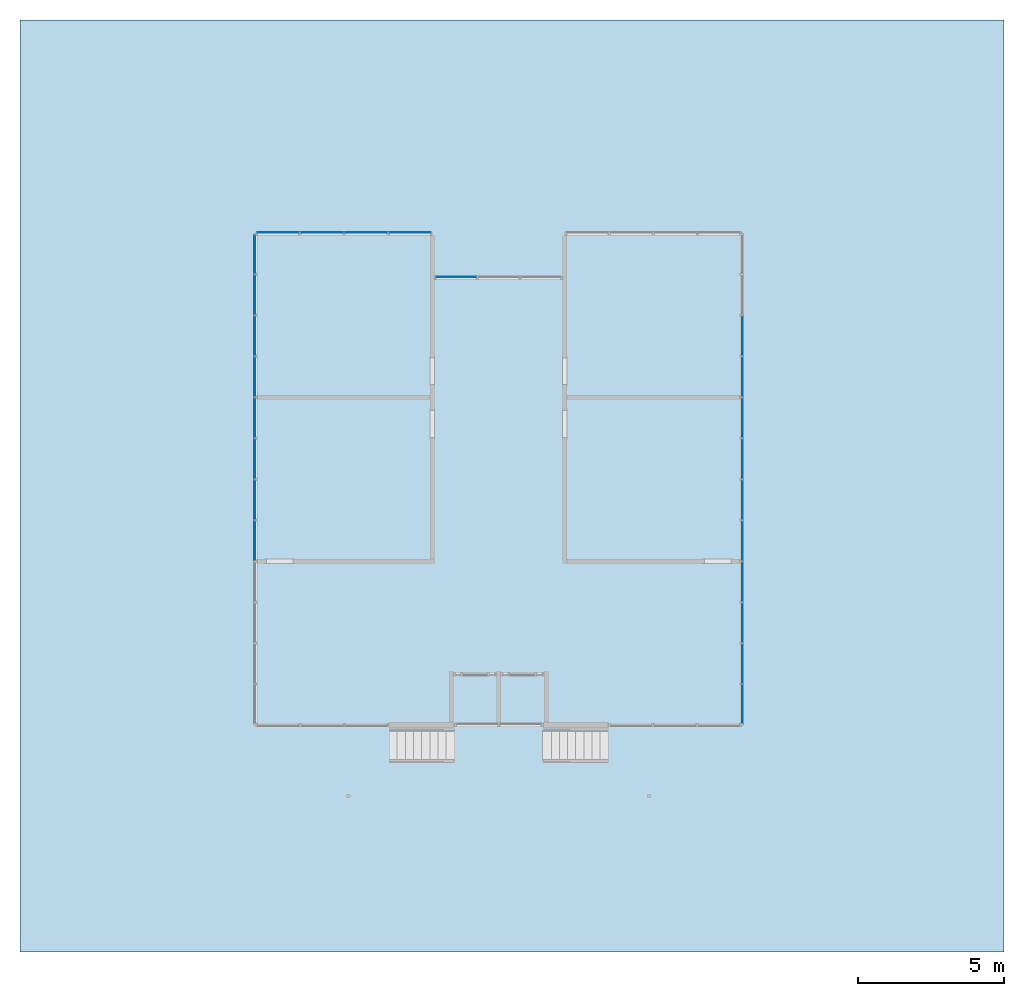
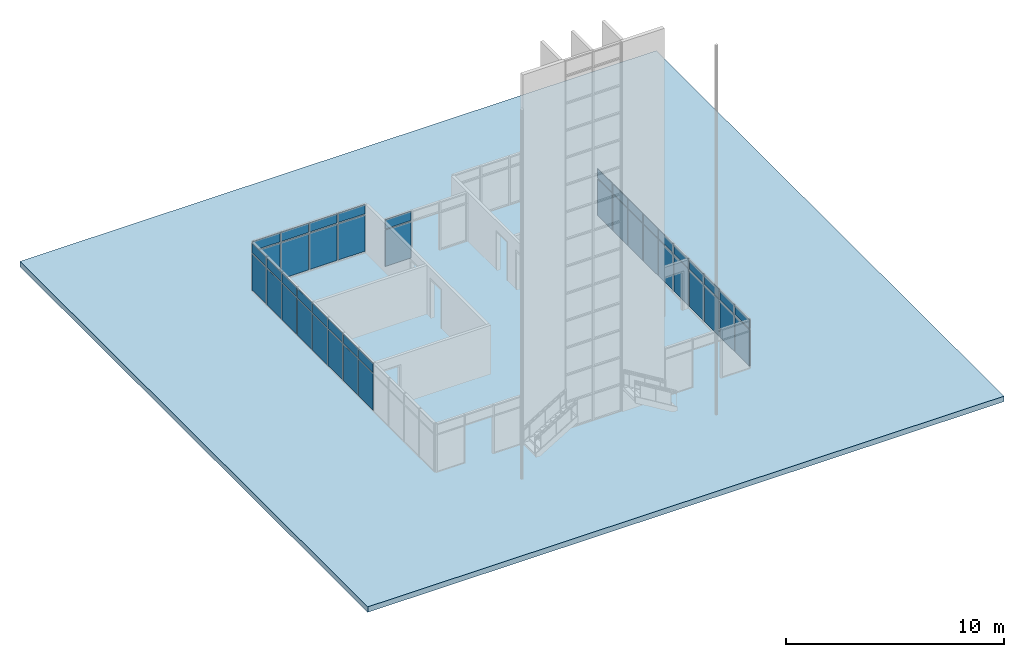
# One storey, part 8 of 12: 46 plates, 1 slab, 4 elements without a shape of their own.
"""IFC2X3 building model written with IfcOpenShell, lengths in feet."""

from ifc_helpers import new_model, entity, si_unit, converted_unit, derived_unit, direction, frame, frame_2d, origin, origin_2d_with_axis, place, context, subcontext, project, spatial, rectangle, extrude, source, transform, mapped, material, layer, layer_set, layer_usage, type_object, type_shapes, element, aggregate, save


model = new_model("IFC2X3")

# Units and contexts
model_context = context("Model", 3, precision=0.0001, world=origin(), true_north=direction((6.12303176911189e-17, 1.0)))
body_context = subcontext(model_context, "Body", "Model", "MODEL_VIEW")
ifc_project = project(units=[converted_unit("LENGTHUNIT", "FOOT", entity("IfcRatioMeasure", 0.3048), si_unit("LENGTHUNIT", "METRE"), dimensions=[1, 0, 0, 0, 0, 0, 0]), converted_unit("AREAUNIT", "SQUARE FOOT", entity("IfcRatioMeasure", 0.09290304), si_unit("AREAUNIT", "SQUARE_METRE"), dimensions=[2, 0, 0, 0, 0, 0, 0]), converted_unit("VOLUMEUNIT", "CUBIC FOOT", entity("IfcRatioMeasure", 0.028316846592), si_unit("VOLUMEUNIT", "CUBIC_METRE"), dimensions=[3, 0, 0, 0, 0, 0, 0]), converted_unit("PLANEANGLEUNIT", "DEGREE", entity("IfcRatioMeasure", 0.0174532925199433), si_unit("PLANEANGLEUNIT", "RADIAN"), dimensions=[0, 0, 0, 0, 0, 0, 0]), si_unit("MASSUNIT", "GRAM", prefix="KILO"), derived_unit("MASSDENSITYUNIT", [(si_unit("MASSUNIT", "GRAM", prefix="KILO"), 1), (si_unit("LENGTHUNIT", "METRE"), -3)]), si_unit("TIMEUNIT", "SECOND"), si_unit("FREQUENCYUNIT", "HERTZ"), si_unit("THERMODYNAMICTEMPERATUREUNIT", "DEGREE_CELSIUS"), derived_unit("THERMALTRANSMITTANCEUNIT", [(si_unit("MASSUNIT", "GRAM", prefix="KILO"), 1), (si_unit("THERMODYNAMICTEMPERATUREUNIT", "KELVIN"), -1), (si_unit("TIMEUNIT", "SECOND"), -3)]), derived_unit("VOLUMETRICFLOWRATEUNIT", [(si_unit("LENGTHUNIT", "METRE"), 3), (si_unit("TIMEUNIT", "SECOND"), -1)]), si_unit("ELECTRICCURRENTUNIT", "AMPERE"), si_unit("ELECTRICVOLTAGEUNIT", "VOLT"), si_unit("POWERUNIT", "WATT"), si_unit("FORCEUNIT", "NEWTON"), si_unit("ILLUMINANCEUNIT", "LUX"), si_unit("LUMINOUSFLUXUNIT", "LUMEN"), si_unit("LUMINOUSINTENSITYUNIT", "CANDELA"), derived_unit("USERDEFINED", [(si_unit("MASSUNIT", "GRAM", prefix="KILO"), -1), (si_unit("LENGTHUNIT", "METRE"), -2), (si_unit("TIMEUNIT", "SECOND"), 3), (si_unit("LUMINOUSFLUXUNIT", "LUMEN"), 1)]), derived_unit("LINEARVELOCITYUNIT", [(si_unit("LENGTHUNIT", "METRE"), 1), (si_unit("TIMEUNIT", "SECOND"), -1)]), si_unit("PRESSUREUNIT", "PASCAL"), derived_unit("USERDEFINED", [(si_unit("LENGTHUNIT", "METRE"), -2), (si_unit("MASSUNIT", "GRAM", prefix="KILO"), 1), (si_unit("TIMEUNIT", "SECOND"), -2)])], contexts=[model_context])

# Site, building, storey
site_placement = place(None, origin())
site = spatial("IfcSite", under=ifc_project, at=site_placement, Name="Default", CompositionType="ELEMENT")
building_placement = place(site_placement, origin())
building = spatial("IfcBuilding", under=site, at=building_placement, CompositionType="ELEMENT")
storey_placement = place(building_placement, origin())
storey = spatial("IfcBuildingStorey", under=building, at=storey_placement, Name="Level 1", CompositionType="ELEMENT", Elevation=0.0)

# Curtain wall, plate
curtain_wall_type = type_object("IfcCurtainWallType", Name="Curtain Wall:Storefront 2", PredefinedType="NOTDEFINED")
curtain_wall_1_placement = place(storey_placement, origin())
curtain_wall_1 = element("IfcCurtainWall", 1, at=curtain_wall_1_placement, inside=storey, type_object=curtain_wall_type, Name="Curtain Wall:Storefront 2", ObjectType="Curtain Wall:Storefront 2")
ifc_material_1 = material(Name="<Unnamed>")
ifc_layer_1 = layer(ifc_material_1, 0.0833333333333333)
ifc_layer_set_1 = layer_set([ifc_layer_1], Name="Curtain Wall:Storefront")
ifc_layer_usage_1 = layer_usage(ifc_layer_set_1, "AXIS3", "POSITIVE", 0.104166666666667)
plate_type_1 = type_object("IfcPlateType", Name="Glazed", PredefinedType="CURTAIN_PANEL", material=ifc_layer_set_1)
shared_shape_1 = source(origin(), body_context, "Body", "SweptSolid", [
    extrude(rectangle(XDim=0.0833333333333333, YDim=4.29513888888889, at=frame_2d((-6.93889390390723e-18, 0.0), x_axis=(1.0, 0.0))), frame((0.0, 0.104166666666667, 0.0), z_axis=(0.0, 0.0, 1.0), x_axis=(0.0, 1.0, 0.0)), (0.0, 0.0, 1.0), 6.6875),
])
type_shapes(plate_type_1, [shared_shape_1])
plate_1_placement = place(curtain_wall_1_placement, frame((-61.3251627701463, 45.9946226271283, 0.208333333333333), z_axis=(0.0, 0.0, 1.0), x_axis=(0.0, 1.0, 0.0)))
plate_1 = element("IfcPlate", 2, at=plate_1_placement, type_object=plate_type_1, material=ifc_layer_usage_1, Name="System Panel:Glazed", ObjectType="Glazed", context=body_context, shape_type="MappedRepresentation", body=[
    mapped(shared_shape_1, transform((0.0, 0.0, 0.0), scale=1.0)),
])

curtain_wall_2_placement = place(storey_placement, origin())
curtain_wall_2 = element("IfcCurtainWall", 3, at=curtain_wall_2_placement, inside=storey, type_object=curtain_wall_type, Name="Curtain Wall:Storefront 2", ObjectType="Curtain Wall:Storefront 2")
ifc_layer_usage_2 = layer_usage(ifc_layer_set_1, "AXIS3", "POSITIVE", 0.104166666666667)
plate_2_placement = place(curtain_wall_2_placement, frame((-6.65849610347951, -4.58523848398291, 0.208333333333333), z_axis=(0.0, 0.0, 1.0), x_axis=(0.0, -1.0, 0.0)))
plate_2 = element("IfcPlate", 4, at=plate_2_placement, type_object=plate_type_1, material=ifc_layer_usage_2, Name="System Panel:Glazed", ObjectType="Glazed", context=body_context, shape_type="MappedRepresentation", body=[
    mapped(shared_shape_1, transform((0.0, 0.0, 0.0), scale=1.0)),
])

# Plate
ifc_layer_usage_3 = layer_usage(ifc_layer_set_1, "AXIS3", "POSITIVE", 0.104166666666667)
plate_type_2 = type_object("IfcPlateType", Name="Glazed", PredefinedType="CURTAIN_PANEL", material=ifc_layer_set_1)
shared_shape_2 = source(origin(), body_context, "Body", "SweptSolid", [
    extrude(rectangle(XDim=0.0833333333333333, YDim=4.39930555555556, at=frame_2d((-6.93889390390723e-18, 0.0), x_axis=(1.0, 0.0))), frame((0.0, 0.104166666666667, 0.0), z_axis=(0.0, 0.0, 1.0), x_axis=(0.0, 1.0, 0.0)), (0.0, 0.0, 1.0), 6.6875),
])
type_shapes(plate_type_2, [shared_shape_2])
plate_3_placement = place(curtain_wall_1_placement, frame((-61.3251627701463, 13.7932337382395, 0.208333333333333), z_axis=(0.0, 0.0, 1.0), x_axis=(0.0, 1.0, 0.0)))
plate_3 = element("IfcPlate", 5, at=plate_3_placement, type_object=plate_type_2, material=ifc_layer_usage_3, Name="System Panel:Glazed", ObjectType="Glazed", context=body_context, shape_type="MappedRepresentation", body=[
    mapped(shared_shape_2, transform((0.0, 0.0, 0.0), scale=1.0)),
])

ifc_layer_usage_4 = layer_usage(ifc_layer_set_1, "AXIS3", "POSITIVE", 0.104166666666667)
plate_4_placement = place(curtain_wall_1_placement, frame((-61.3251627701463, 18.4008726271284, 0.208333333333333), z_axis=(0.0, 0.0, 1.0), x_axis=(0.0, 1.0, 0.0)))
plate_4 = element("IfcPlate", 6, at=plate_4_placement, type_object=plate_type_2, material=ifc_layer_usage_4, Name="System Panel:Glazed", ObjectType="Glazed", context=body_context, shape_type="MappedRepresentation", body=[
    mapped(shared_shape_2, transform((0.0, 0.0, 0.0), scale=1.0)),
])

ifc_layer_usage_5 = layer_usage(ifc_layer_set_1, "AXIS3", "POSITIVE", 0.104166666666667)
plate_5_placement = place(curtain_wall_1_placement, frame((-61.3251627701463, 23.0085115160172, 0.208333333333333), z_axis=(0.0, 0.0, 1.0), x_axis=(0.0, 1.0, 0.0)))
plate_5 = element("IfcPlate", 7, at=plate_5_placement, type_object=plate_type_2, material=ifc_layer_usage_5, Name="System Panel:Glazed", ObjectType="Glazed", context=body_context, shape_type="MappedRepresentation", body=[
    mapped(shared_shape_2, transform((0.0, 0.0, 0.0), scale=1.0)),
])

ifc_layer_usage_6 = layer_usage(ifc_layer_set_1, "AXIS3", "POSITIVE", 0.104166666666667)
plate_6_placement = place(curtain_wall_1_placement, frame((-61.3251627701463, 27.6161504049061, 0.208333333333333), z_axis=(0.0, 0.0, 1.0), x_axis=(0.0, 1.0, 0.0)))
plate_6 = element("IfcPlate", 8, at=plate_6_placement, type_object=plate_type_2, material=ifc_layer_usage_6, Name="System Panel:Glazed", ObjectType="Glazed", context=body_context, shape_type="MappedRepresentation", body=[
    mapped(shared_shape_2, transform((0.0, 0.0, 0.0), scale=1.0)),
])

ifc_layer_usage_7 = layer_usage(ifc_layer_set_1, "AXIS3", "POSITIVE", 0.104166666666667)
plate_7_placement = place(curtain_wall_1_placement, frame((-61.3251627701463, 32.223789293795, 0.208333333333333), z_axis=(0.0, 0.0, 1.0), x_axis=(0.0, 1.0, 0.0)))
plate_7 = element("IfcPlate", 9, at=plate_7_placement, type_object=plate_type_2, material=ifc_layer_usage_7, Name="System Panel:Glazed", ObjectType="Glazed", context=body_context, shape_type="MappedRepresentation", body=[
    mapped(shared_shape_2, transform((0.0, 0.0, 0.0), scale=1.0)),
])

ifc_layer_usage_8 = layer_usage(ifc_layer_set_1, "AXIS3", "POSITIVE", 0.104166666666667)
plate_8_placement = place(curtain_wall_1_placement, frame((-61.3251627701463, 36.8314281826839, 0.208333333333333), z_axis=(0.0, 0.0, 1.0), x_axis=(0.0, 1.0, 0.0)))
plate_8 = element("IfcPlate", 10, at=plate_8_placement, type_object=plate_type_2, material=ifc_layer_usage_8, Name="System Panel:Glazed", ObjectType="Glazed", context=body_context, shape_type="MappedRepresentation", body=[
    mapped(shared_shape_2, transform((0.0, 0.0, 0.0), scale=1.0)),
])

ifc_layer_usage_9 = layer_usage(ifc_layer_set_1, "AXIS3", "POSITIVE", 0.104166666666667)
plate_9_placement = place(curtain_wall_1_placement, frame((-61.3251627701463, 41.4390670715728, 0.208333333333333), z_axis=(0.0, 0.0, 1.0), x_axis=(0.0, 1.0, 0.0)))
plate_9 = element("IfcPlate", 11, at=plate_9_placement, type_object=plate_type_2, material=ifc_layer_usage_9, Name="System Panel:Glazed", ObjectType="Glazed", context=body_context, shape_type="MappedRepresentation", body=[
    mapped(shared_shape_2, transform((0.0, 0.0, 0.0), scale=1.0)),
])

ifc_layer_usage_10 = layer_usage(ifc_layer_set_1, "AXIS3", "POSITIVE", 0.104166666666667)
plate_10_placement = place(curtain_wall_2_placement, frame((-6.65849610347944, 36.8314281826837, 0.208333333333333), z_axis=(0.0, 0.0, 1.0), x_axis=(0.0, -1.0, 0.0)))
plate_10 = element("IfcPlate", 12, at=plate_10_placement, type_object=plate_type_2, material=ifc_layer_usage_10, Name="System Panel:Glazed", ObjectType="Glazed", context=body_context, shape_type="MappedRepresentation", body=[
    mapped(shared_shape_2, transform((0.0, 0.0, 0.0), scale=1.0)),
])

ifc_layer_usage_11 = layer_usage(ifc_layer_set_1, "AXIS3", "POSITIVE", 0.104166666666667)
plate_11_placement = place(curtain_wall_2_placement, frame((-6.65849610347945, 32.2237892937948, 0.208333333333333), z_axis=(0.0, 0.0, 1.0), x_axis=(0.0, -1.0, 0.0)))
plate_11 = element("IfcPlate", 13, at=plate_11_placement, type_object=plate_type_2, material=ifc_layer_usage_11, Name="System Panel:Glazed", ObjectType="Glazed", context=body_context, shape_type="MappedRepresentation", body=[
    mapped(shared_shape_2, transform((0.0, 0.0, 0.0), scale=1.0)),
])

ifc_layer_usage_12 = layer_usage(ifc_layer_set_1, "AXIS3", "POSITIVE", 0.104166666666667)
plate_12_placement = place(curtain_wall_2_placement, frame((-6.65849610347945, 27.616150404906, 0.208333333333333), z_axis=(0.0, 0.0, 1.0), x_axis=(0.0, -1.0, 0.0)))
plate_12 = element("IfcPlate", 14, at=plate_12_placement, type_object=plate_type_2, material=ifc_layer_usage_12, Name="System Panel:Glazed", ObjectType="Glazed", context=body_context, shape_type="MappedRepresentation", body=[
    mapped(shared_shape_2, transform((0.0, 0.0, 0.0), scale=1.0)),
])

ifc_layer_usage_13 = layer_usage(ifc_layer_set_1, "AXIS3", "POSITIVE", 0.104166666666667)
plate_13_placement = place(curtain_wall_2_placement, frame((-6.65849610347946, 23.0085115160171, 0.208333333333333), z_axis=(0.0, 0.0, 1.0), x_axis=(0.0, -1.0, 0.0)))
plate_13 = element("IfcPlate", 15, at=plate_13_placement, type_object=plate_type_2, material=ifc_layer_usage_13, Name="System Panel:Glazed", ObjectType="Glazed", context=body_context, shape_type="MappedRepresentation", body=[
    mapped(shared_shape_2, transform((0.0, 0.0, 0.0), scale=1.0)),
])

ifc_layer_usage_14 = layer_usage(ifc_layer_set_1, "AXIS3", "POSITIVE", 0.104166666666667)
plate_14_placement = place(curtain_wall_2_placement, frame((-6.65849610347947, 18.4008726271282, 0.208333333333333), z_axis=(0.0, 0.0, 1.0), x_axis=(0.0, -1.0, 0.0)))
plate_14 = element("IfcPlate", 16, at=plate_14_placement, type_object=plate_type_2, material=ifc_layer_usage_14, Name="System Panel:Glazed", ObjectType="Glazed", context=body_context, shape_type="MappedRepresentation", body=[
    mapped(shared_shape_2, transform((0.0, 0.0, 0.0), scale=1.0)),
])

ifc_layer_usage_15 = layer_usage(ifc_layer_set_1, "AXIS3", "POSITIVE", 0.104166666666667)
plate_15_placement = place(curtain_wall_2_placement, frame((-6.65849610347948, 13.7932337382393, 0.208333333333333), z_axis=(0.0, 0.0, 1.0), x_axis=(0.0, -1.0, 0.0)))
plate_15 = element("IfcPlate", 17, at=plate_15_placement, type_object=plate_type_2, material=ifc_layer_usage_15, Name="System Panel:Glazed", ObjectType="Glazed", context=body_context, shape_type="MappedRepresentation", body=[
    mapped(shared_shape_2, transform((0.0, 0.0, 0.0), scale=1.0)),
])

ifc_layer_usage_16 = layer_usage(ifc_layer_set_1, "AXIS3", "POSITIVE", 0.104166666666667)
plate_16_placement = place(curtain_wall_2_placement, frame((-6.65849610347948, 9.18559484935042, 0.208333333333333), z_axis=(0.0, 0.0, 1.0), x_axis=(0.0, -1.0, 0.0)))
plate_16 = element("IfcPlate", 18, at=plate_16_placement, type_object=plate_type_2, material=ifc_layer_usage_16, Name="System Panel:Glazed", ObjectType="Glazed", context=body_context, shape_type="MappedRepresentation", body=[
    mapped(shared_shape_2, transform((0.0, 0.0, 0.0), scale=1.0)),
])

ifc_layer_usage_17 = layer_usage(ifc_layer_set_1, "AXIS3", "POSITIVE", 0.104166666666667)
plate_17_placement = place(curtain_wall_2_placement, frame((-6.65849610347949, 4.57795596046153, 0.208333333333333), z_axis=(0.0, 0.0, 1.0), x_axis=(0.0, -1.0, 0.0)))
plate_17 = element("IfcPlate", 19, at=plate_17_placement, type_object=plate_type_2, material=ifc_layer_usage_17, Name="System Panel:Glazed", ObjectType="Glazed", context=body_context, shape_type="MappedRepresentation", body=[
    mapped(shared_shape_2, transform((0.0, 0.0, 0.0), scale=1.0)),
])

ifc_layer_usage_18 = layer_usage(ifc_layer_set_1, "AXIS3", "POSITIVE", 0.104166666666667)
plate_18_placement = place(curtain_wall_2_placement, frame((-6.6584961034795, -0.0296829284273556, 0.208333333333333), z_axis=(0.0, 0.0, 1.0), x_axis=(0.0, -1.0, 0.0)))
plate_18 = element("IfcPlate", 20, at=plate_18_placement, type_object=plate_type_2, material=ifc_layer_usage_18, Name="System Panel:Glazed", ObjectType="Glazed", context=body_context, shape_type="MappedRepresentation", body=[
    mapped(shared_shape_2, transform((0.0, 0.0, 0.0), scale=1.0)),
])

ifc_layer_usage_19 = layer_usage(ifc_layer_set_1, "AXIS3", "POSITIVE", 0.104166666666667)
plate_type_3 = type_object("IfcPlateType", Name="Glazed", PredefinedType="CURTAIN_PANEL", material=ifc_layer_set_1)
shared_shape_3 = source(origin(), body_context, "Body", "SweptSolid", [
    extrude(rectangle(XDim=0.0833333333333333, YDim=4.29513888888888, at=frame_2d((-6.93889390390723e-18, 0.0), x_axis=(1.0, 0.0))), frame((0.0, 0.104166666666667, 0.0), z_axis=(0.0, 0.0, 1.0), x_axis=(0.0, 1.0, 0.0)), (0.0, 0.0, 1.0), 1.6875),
])
type_shapes(plate_type_3, [shared_shape_3])
plate_19_placement = place(curtain_wall_1_placement, frame((-61.3251627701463, 45.9946226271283, 7.10416666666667), z_axis=(0.0, 0.0, 1.0), x_axis=(0.0, 1.0, 0.0)))
plate_19 = element("IfcPlate", 21, at=plate_19_placement, type_object=plate_type_3, material=ifc_layer_usage_19, Name="System Panel:Glazed", ObjectType="Glazed", context=body_context, shape_type="MappedRepresentation", body=[
    mapped(shared_shape_3, transform((0.0, 0.0, 0.0), scale=1.0)),
])

ifc_layer_usage_20 = layer_usage(ifc_layer_set_1, "AXIS3", "POSITIVE", 0.104166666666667)
plate_20_placement = place(curtain_wall_2_placement, frame((-6.65849610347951, -4.58523848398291, 7.10416666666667), z_axis=(0.0, 0.0, 1.0), x_axis=(0.0, -1.0, 0.0)))
plate_20 = element("IfcPlate", 22, at=plate_20_placement, type_object=plate_type_3, material=ifc_layer_usage_20, Name="System Panel:Glazed", ObjectType="Glazed", context=body_context, shape_type="MappedRepresentation", body=[
    mapped(shared_shape_3, transform((0.0, 0.0, 0.0), scale=1.0)),
])

ifc_layer_usage_21 = layer_usage(ifc_layer_set_1, "AXIS3", "POSITIVE", 0.104166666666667)
plate_type_4 = type_object("IfcPlateType", Name="Glazed", PredefinedType="CURTAIN_PANEL", material=ifc_layer_set_1)
shared_shape_4 = source(origin(), body_context, "Body", "SweptSolid", [
    extrude(rectangle(XDim=0.0833333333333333, YDim=4.39930555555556, at=frame_2d((-6.93889390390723e-18, 0.0), x_axis=(1.0, 0.0))), frame((0.0, 0.104166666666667, 0.0), z_axis=(0.0, 0.0, 1.0), x_axis=(0.0, 1.0, 0.0)), (0.0, 0.0, 1.0), 1.6875),
])
type_shapes(plate_type_4, [shared_shape_4])
plate_21_placement = place(curtain_wall_1_placement, frame((-61.3251627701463, 13.7932337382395, 7.10416666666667), z_axis=(0.0, 0.0, 1.0), x_axis=(0.0, 1.0, 0.0)))
plate_21 = element("IfcPlate", 23, at=plate_21_placement, type_object=plate_type_4, material=ifc_layer_usage_21, Name="System Panel:Glazed", ObjectType="Glazed", context=body_context, shape_type="MappedRepresentation", body=[
    mapped(shared_shape_4, transform((0.0, 0.0, 0.0), scale=1.0)),
])

ifc_layer_usage_22 = layer_usage(ifc_layer_set_1, "AXIS3", "POSITIVE", 0.104166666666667)
plate_22_placement = place(curtain_wall_1_placement, frame((-61.3251627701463, 18.4008726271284, 7.10416666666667), z_axis=(0.0, 0.0, 1.0), x_axis=(0.0, 1.0, 0.0)))
plate_22 = element("IfcPlate", 24, at=plate_22_placement, type_object=plate_type_4, material=ifc_layer_usage_22, Name="System Panel:Glazed", ObjectType="Glazed", context=body_context, shape_type="MappedRepresentation", body=[
    mapped(shared_shape_4, transform((0.0, 0.0, 0.0), scale=1.0)),
])

ifc_layer_usage_23 = layer_usage(ifc_layer_set_1, "AXIS3", "POSITIVE", 0.104166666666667)
plate_23_placement = place(curtain_wall_1_placement, frame((-61.3251627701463, 23.0085115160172, 7.10416666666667), z_axis=(0.0, 0.0, 1.0), x_axis=(0.0, 1.0, 0.0)))
plate_23 = element("IfcPlate", 25, at=plate_23_placement, type_object=plate_type_4, material=ifc_layer_usage_23, Name="System Panel:Glazed", ObjectType="Glazed", context=body_context, shape_type="MappedRepresentation", body=[
    mapped(shared_shape_4, transform((0.0, 0.0, 0.0), scale=1.0)),
])

ifc_layer_usage_24 = layer_usage(ifc_layer_set_1, "AXIS3", "POSITIVE", 0.104166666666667)
plate_24_placement = place(curtain_wall_1_placement, frame((-61.3251627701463, 27.6161504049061, 7.10416666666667), z_axis=(0.0, 0.0, 1.0), x_axis=(0.0, 1.0, 0.0)))
plate_24 = element("IfcPlate", 26, at=plate_24_placement, type_object=plate_type_4, material=ifc_layer_usage_24, Name="System Panel:Glazed", ObjectType="Glazed", context=body_context, shape_type="MappedRepresentation", body=[
    mapped(shared_shape_4, transform((0.0, 0.0, 0.0), scale=1.0)),
])

ifc_layer_usage_25 = layer_usage(ifc_layer_set_1, "AXIS3", "POSITIVE", 0.104166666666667)
plate_25_placement = place(curtain_wall_1_placement, frame((-61.3251627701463, 32.223789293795, 7.10416666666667), z_axis=(0.0, 0.0, 1.0), x_axis=(0.0, 1.0, 0.0)))
plate_25 = element("IfcPlate", 27, at=plate_25_placement, type_object=plate_type_4, material=ifc_layer_usage_25, Name="System Panel:Glazed", ObjectType="Glazed", context=body_context, shape_type="MappedRepresentation", body=[
    mapped(shared_shape_4, transform((0.0, 0.0, 0.0), scale=1.0)),
])

ifc_layer_usage_26 = layer_usage(ifc_layer_set_1, "AXIS3", "POSITIVE", 0.104166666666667)
plate_26_placement = place(curtain_wall_1_placement, frame((-61.3251627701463, 36.8314281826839, 7.10416666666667), z_axis=(0.0, 0.0, 1.0), x_axis=(0.0, 1.0, 0.0)))
plate_26 = element("IfcPlate", 28, at=plate_26_placement, type_object=plate_type_4, material=ifc_layer_usage_26, Name="System Panel:Glazed", ObjectType="Glazed", context=body_context, shape_type="MappedRepresentation", body=[
    mapped(shared_shape_4, transform((0.0, 0.0, 0.0), scale=1.0)),
])

ifc_layer_usage_27 = layer_usage(ifc_layer_set_1, "AXIS3", "POSITIVE", 0.104166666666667)
plate_27_placement = place(curtain_wall_1_placement, frame((-61.3251627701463, 41.4390670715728, 7.10416666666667), z_axis=(0.0, 0.0, 1.0), x_axis=(0.0, 1.0, 0.0)))
plate_27 = element("IfcPlate", 29, at=plate_27_placement, type_object=plate_type_4, material=ifc_layer_usage_27, Name="System Panel:Glazed", ObjectType="Glazed", context=body_context, shape_type="MappedRepresentation", body=[
    mapped(shared_shape_4, transform((0.0, 0.0, 0.0), scale=1.0)),
])

aggregate(curtain_wall_1, [plate_3, plate_4, plate_5, plate_6, plate_7, plate_8, plate_9, plate_1, plate_21, plate_22, plate_23, plate_24, plate_25, plate_26, plate_27, plate_19])

ifc_layer_usage_28 = layer_usage(ifc_layer_set_1, "AXIS3", "POSITIVE", 0.104166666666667)
plate_28_placement = place(curtain_wall_2_placement, frame((-6.65849610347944, 36.8314281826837, 7.10416666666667), z_axis=(0.0, 0.0, 1.0), x_axis=(0.0, -1.0, 0.0)))
plate_28 = element("IfcPlate", 30, at=plate_28_placement, type_object=plate_type_4, material=ifc_layer_usage_28, Name="System Panel:Glazed", ObjectType="Glazed", context=body_context, shape_type="MappedRepresentation", body=[
    mapped(shared_shape_4, transform((0.0, 0.0, 0.0), scale=1.0)),
])

ifc_layer_usage_29 = layer_usage(ifc_layer_set_1, "AXIS3", "POSITIVE", 0.104166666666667)
plate_29_placement = place(curtain_wall_2_placement, frame((-6.65849610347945, 32.2237892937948, 7.10416666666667), z_axis=(0.0, 0.0, 1.0), x_axis=(0.0, -1.0, 0.0)))
plate_29 = element("IfcPlate", 31, at=plate_29_placement, type_object=plate_type_4, material=ifc_layer_usage_29, Name="System Panel:Glazed", ObjectType="Glazed", context=body_context, shape_type="MappedRepresentation", body=[
    mapped(shared_shape_4, transform((0.0, 0.0, 0.0), scale=1.0)),
])

ifc_layer_usage_30 = layer_usage(ifc_layer_set_1, "AXIS3", "POSITIVE", 0.104166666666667)
plate_30_placement = place(curtain_wall_2_placement, frame((-6.65849610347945, 27.616150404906, 7.10416666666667), z_axis=(0.0, 0.0, 1.0), x_axis=(0.0, -1.0, 0.0)))
plate_30 = element("IfcPlate", 32, at=plate_30_placement, type_object=plate_type_4, material=ifc_layer_usage_30, Name="System Panel:Glazed", ObjectType="Glazed", context=body_context, shape_type="MappedRepresentation", body=[
    mapped(shared_shape_4, transform((0.0, 0.0, 0.0), scale=1.0)),
])

ifc_layer_usage_31 = layer_usage(ifc_layer_set_1, "AXIS3", "POSITIVE", 0.104166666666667)
plate_31_placement = place(curtain_wall_2_placement, frame((-6.65849610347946, 23.0085115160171, 7.10416666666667), z_axis=(0.0, 0.0, 1.0), x_axis=(0.0, -1.0, 0.0)))
plate_31 = element("IfcPlate", 33, at=plate_31_placement, type_object=plate_type_4, material=ifc_layer_usage_31, Name="System Panel:Glazed", ObjectType="Glazed", context=body_context, shape_type="MappedRepresentation", body=[
    mapped(shared_shape_4, transform((0.0, 0.0, 0.0), scale=1.0)),
])

ifc_layer_usage_32 = layer_usage(ifc_layer_set_1, "AXIS3", "POSITIVE", 0.104166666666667)
plate_32_placement = place(curtain_wall_2_placement, frame((-6.65849610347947, 18.4008726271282, 7.10416666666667), z_axis=(0.0, 0.0, 1.0), x_axis=(0.0, -1.0, 0.0)))
plate_32 = element("IfcPlate", 34, at=plate_32_placement, type_object=plate_type_4, material=ifc_layer_usage_32, Name="System Panel:Glazed", ObjectType="Glazed", context=body_context, shape_type="MappedRepresentation", body=[
    mapped(shared_shape_4, transform((0.0, 0.0, 0.0), scale=1.0)),
])

ifc_layer_usage_33 = layer_usage(ifc_layer_set_1, "AXIS3", "POSITIVE", 0.104166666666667)
plate_33_placement = place(curtain_wall_2_placement, frame((-6.65849610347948, 13.7932337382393, 7.10416666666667), z_axis=(0.0, 0.0, 1.0), x_axis=(0.0, -1.0, 0.0)))
plate_33 = element("IfcPlate", 35, at=plate_33_placement, type_object=plate_type_4, material=ifc_layer_usage_33, Name="System Panel:Glazed", ObjectType="Glazed", context=body_context, shape_type="MappedRepresentation", body=[
    mapped(shared_shape_4, transform((0.0, 0.0, 0.0), scale=1.0)),
])

ifc_layer_usage_34 = layer_usage(ifc_layer_set_1, "AXIS3", "POSITIVE", 0.104166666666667)
plate_34_placement = place(curtain_wall_2_placement, frame((-6.65849610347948, 9.18559484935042, 7.10416666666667), z_axis=(0.0, 0.0, 1.0), x_axis=(0.0, -1.0, 0.0)))
plate_34 = element("IfcPlate", 36, at=plate_34_placement, type_object=plate_type_4, material=ifc_layer_usage_34, Name="System Panel:Glazed", ObjectType="Glazed", context=body_context, shape_type="MappedRepresentation", body=[
    mapped(shared_shape_4, transform((0.0, 0.0, 0.0), scale=1.0)),
])

ifc_layer_usage_35 = layer_usage(ifc_layer_set_1, "AXIS3", "POSITIVE", 0.104166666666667)
plate_35_placement = place(curtain_wall_2_placement, frame((-6.65849610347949, 4.57795596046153, 7.10416666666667), z_axis=(0.0, 0.0, 1.0), x_axis=(0.0, -1.0, 0.0)))
plate_35 = element("IfcPlate", 37, at=plate_35_placement, type_object=plate_type_4, material=ifc_layer_usage_35, Name="System Panel:Glazed", ObjectType="Glazed", context=body_context, shape_type="MappedRepresentation", body=[
    mapped(shared_shape_4, transform((0.0, 0.0, 0.0), scale=1.0)),
])

ifc_layer_usage_36 = layer_usage(ifc_layer_set_1, "AXIS3", "POSITIVE", 0.104166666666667)
plate_36_placement = place(curtain_wall_2_placement, frame((-6.6584961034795, -0.0296829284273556, 7.10416666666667), z_axis=(0.0, 0.0, 1.0), x_axis=(0.0, -1.0, 0.0)))
plate_36 = element("IfcPlate", 38, at=plate_36_placement, type_object=plate_type_4, material=ifc_layer_usage_36, Name="System Panel:Glazed", ObjectType="Glazed", context=body_context, shape_type="MappedRepresentation", body=[
    mapped(shared_shape_4, transform((0.0, 0.0, 0.0), scale=1.0)),
])

aggregate(curtain_wall_2, [plate_10, plate_11, plate_12, plate_13, plate_14, plate_15, plate_16, plate_17, plate_18, plate_2, plate_28, plate_29, plate_30, plate_31, plate_32, plate_33, plate_34, plate_35, plate_36, plate_20])

# Curtain wall, plates
curtain_wall_3_placement = place(storey_placement, origin())
curtain_wall_3 = element("IfcCurtainWall", 39, at=curtain_wall_3_placement, inside=storey, type_object=curtain_wall_type, Name="Curtain Wall:Storefront 2", ObjectType="Curtain Wall:Storefront 2")
ifc_layer_usage_37 = layer_usage(ifc_layer_set_1, "AXIS3", "POSITIVE", 0.104166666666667)
plate_type_5 = type_object("IfcPlateType", Name="Glazed", PredefinedType="CURTAIN_PANEL", material=ifc_layer_set_1)
shared_shape_5 = source(origin(), body_context, "Body", "SweptSolid", [
    extrude(rectangle(XDim=0.0833333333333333, YDim=4.65719696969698, at=frame_2d((-6.93889390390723e-18, 0.0), x_axis=(1.0, 0.0))), frame((0.0, 0.104166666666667, 0.0), z_axis=(0.0, 0.0, 1.0), x_axis=(0.0, 1.0, 0.0)), (0.0, 0.0, 1.0), 6.6875),
])
type_shapes(plate_type_5, [shared_shape_5])
plate_37_placement = place(curtain_wall_3_placement, frame((-58.7882309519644, 48.3505254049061, 0.208333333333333)))
plate_37 = element("IfcPlate", 40, at=plate_37_placement, type_object=plate_type_5, material=ifc_layer_usage_37, Name="System Panel:Glazed", ObjectType="Glazed", context=body_context, shape_type="MappedRepresentation", body=[
    mapped(shared_shape_5, transform((0.0, 0.0, 0.0), scale=1.0)),
])
ifc_layer_usage_38 = layer_usage(ifc_layer_set_1, "AXIS3", "POSITIVE", 0.104166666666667)
plate_38_placement = place(curtain_wall_3_placement, frame((-43.9833067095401, 48.3505254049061, 0.208333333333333)))
plate_38 = element("IfcPlate", 41, at=plate_38_placement, type_object=plate_type_5, material=ifc_layer_usage_38, Name="System Panel:Glazed", ObjectType="Glazed", context=body_context, shape_type="MappedRepresentation", body=[
    mapped(shared_shape_5, transform((0.0, 0.0, 0.0), scale=1.0)),
])
ifc_layer_usage_39 = layer_usage(ifc_layer_set_1, "AXIS3", "POSITIVE", 0.104166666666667)
plate_type_6 = type_object("IfcPlateType", Name="Glazed", PredefinedType="CURTAIN_PANEL", material=ifc_layer_set_1)
shared_shape_6 = source(origin(), body_context, "Body", "SweptSolid", [
    extrude(rectangle(XDim=0.0833333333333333, YDim=4.76136363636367, at=frame_2d((-6.93889390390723e-18, 0.0), x_axis=(1.0, 0.0))), frame((0.0, 0.104166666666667, 0.0), z_axis=(0.0, 0.0, 1.0), x_axis=(0.0, 1.0, 0.0)), (0.0, 0.0, 1.0), 6.6875),
])
type_shapes(plate_type_6, [shared_shape_6])
plate_39_placement = place(curtain_wall_3_placement, frame((-53.8706173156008, 48.3505254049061, 0.208333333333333)))
plate_39 = element("IfcPlate", 42, at=plate_39_placement, type_object=plate_type_6, material=ifc_layer_usage_39, Name="System Panel:Glazed", ObjectType="Glazed", context=body_context, shape_type="MappedRepresentation", body=[
    mapped(shared_shape_6, transform((0.0, 0.0, 0.0), scale=1.0)),
])
ifc_layer_usage_40 = layer_usage(ifc_layer_set_1, "AXIS3", "POSITIVE", 0.104166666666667)
plate_40_placement = place(curtain_wall_3_placement, frame((-48.9009203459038, 48.3505254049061, 0.208333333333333)))
plate_40 = element("IfcPlate", 43, at=plate_40_placement, type_object=plate_type_6, material=ifc_layer_usage_40, Name="System Panel:Glazed", ObjectType="Glazed", context=body_context, shape_type="MappedRepresentation", body=[
    mapped(shared_shape_6, transform((0.0, 0.0, 0.0), scale=1.0)),
])
ifc_layer_usage_41 = layer_usage(ifc_layer_set_1, "AXIS3", "POSITIVE", 0.104166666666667)
plate_type_7 = type_object("IfcPlateType", Name="Glazed", PredefinedType="CURTAIN_PANEL", material=ifc_layer_set_1)
shared_shape_7 = source(origin(), body_context, "Body", "SweptSolid", [
    extrude(rectangle(XDim=0.0833333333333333, YDim=4.65719696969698, at=frame_2d((-6.93889390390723e-18, 0.0), x_axis=(1.0, 0.0))), frame((0.0, 0.104166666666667, 0.0), z_axis=(0.0, 0.0, 1.0), x_axis=(0.0, 1.0, 0.0)), (0.0, 0.0, 1.0), 1.6875),
])
type_shapes(plate_type_7, [shared_shape_7])
plate_41_placement = place(curtain_wall_3_placement, frame((-58.7882309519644, 48.3505254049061, 7.10416666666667)))
plate_41 = element("IfcPlate", 44, at=plate_41_placement, type_object=plate_type_7, material=ifc_layer_usage_41, Name="System Panel:Glazed", ObjectType="Glazed", context=body_context, shape_type="MappedRepresentation", body=[
    mapped(shared_shape_7, transform((0.0, 0.0, 0.0), scale=1.0)),
])
ifc_layer_usage_42 = layer_usage(ifc_layer_set_1, "AXIS3", "POSITIVE", 0.104166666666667)
plate_42_placement = place(curtain_wall_3_placement, frame((-43.9833067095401, 48.3505254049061, 7.10416666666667)))
plate_42 = element("IfcPlate", 45, at=plate_42_placement, type_object=plate_type_7, material=ifc_layer_usage_42, Name="System Panel:Glazed", ObjectType="Glazed", context=body_context, shape_type="MappedRepresentation", body=[
    mapped(shared_shape_7, transform((0.0, 0.0, 0.0), scale=1.0)),
])
ifc_layer_usage_43 = layer_usage(ifc_layer_set_1, "AXIS3", "POSITIVE", 0.104166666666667)
plate_type_8 = type_object("IfcPlateType", Name="Glazed", PredefinedType="CURTAIN_PANEL", material=ifc_layer_set_1)
shared_shape_8 = source(origin(), body_context, "Body", "SweptSolid", [
    extrude(rectangle(XDim=0.0833333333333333, YDim=4.76136363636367, at=frame_2d((-6.93889390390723e-18, 0.0), x_axis=(1.0, 0.0))), frame((0.0, 0.104166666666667, 0.0), z_axis=(0.0, 0.0, 1.0), x_axis=(0.0, 1.0, 0.0)), (0.0, 0.0, 1.0), 1.6875),
])
type_shapes(plate_type_8, [shared_shape_8])
plate_43_placement = place(curtain_wall_3_placement, frame((-53.8706173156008, 48.3505254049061, 7.10416666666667)))
plate_43 = element("IfcPlate", 46, at=plate_43_placement, type_object=plate_type_8, material=ifc_layer_usage_43, Name="System Panel:Glazed", ObjectType="Glazed", context=body_context, shape_type="MappedRepresentation", body=[
    mapped(shared_shape_8, transform((0.0, 0.0, 0.0), scale=1.0)),
])
ifc_layer_usage_44 = layer_usage(ifc_layer_set_1, "AXIS3", "POSITIVE", 0.104166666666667)
plate_44_placement = place(curtain_wall_3_placement, frame((-48.9009203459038, 48.3505254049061, 7.10416666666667)))
plate_44 = element("IfcPlate", 47, at=plate_44_placement, type_object=plate_type_8, material=ifc_layer_usage_44, Name="System Panel:Glazed", ObjectType="Glazed", context=body_context, shape_type="MappedRepresentation", body=[
    mapped(shared_shape_8, transform((0.0, 0.0, 0.0), scale=1.0)),
])
aggregate(curtain_wall_3, [plate_37, plate_39, plate_40, plate_38, plate_41, plate_43, plate_44, plate_42])

curtain_wall_4_placement = place(storey_placement, origin())
curtain_wall_4 = element("IfcCurtainWall", 48, at=curtain_wall_4_placement, inside=storey, type_object=curtain_wall_type, Name="Curtain Wall:Storefront 2", ObjectType="Curtain Wall:Storefront 2")
ifc_layer_usage_45 = layer_usage(ifc_layer_set_1, "AXIS3", "POSITIVE", 0.104166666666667)
plate_type_9 = type_object("IfcPlateType", Name="Glazed", PredefinedType="CURTAIN_PANEL", material=ifc_layer_set_1)
shared_shape_9 = source(origin(), body_context, "Body", "SweptSolid", [
    extrude(rectangle(XDim=0.0833333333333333, YDim=4.49053030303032, at=frame_2d((-6.93889390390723e-18, 0.0), x_axis=(1.0, 0.0))), frame((0.0, 0.104166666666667, 0.0), z_axis=(0.0, 0.0, 1.0), x_axis=(0.0, 1.0, 0.0)), (0.0, 0.0, 1.0), 6.6875),
])
type_shapes(plate_type_9, [shared_shape_9])
plate_45_placement = place(curtain_wall_4_placement, frame((-38.7427764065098, 43.3505254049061, 0.208333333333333)))
plate_45 = element("IfcPlate", 49, at=plate_45_placement, type_object=plate_type_9, material=ifc_layer_usage_45, Name="System Panel:Glazed", ObjectType="Glazed", context=body_context, shape_type="MappedRepresentation", body=[
    mapped(shared_shape_9, transform((0.0, 0.0, 0.0), scale=1.0)),
])
ifc_layer_usage_46 = layer_usage(ifc_layer_set_1, "AXIS3", "POSITIVE", 0.104166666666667)
plate_type_10 = type_object("IfcPlateType", Name="Glazed", PredefinedType="CURTAIN_PANEL", material=ifc_layer_set_1)
shared_shape_10 = source(origin(), body_context, "Body", "SweptSolid", [
    extrude(rectangle(XDim=0.0833333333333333, YDim=4.49053030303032, at=frame_2d((-6.93889390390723e-18, 0.0), x_axis=(1.0, 0.0))), frame((0.0, 0.104166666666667, 0.0), z_axis=(0.0, 0.0, 1.0), x_axis=(0.0, 1.0, 0.0)), (0.0, 0.0, 1.0), 1.6875),
])
type_shapes(plate_type_10, [shared_shape_10])
plate_46_placement = place(curtain_wall_4_placement, frame((-38.7427764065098, 43.3505254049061, 7.10416666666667)))
plate_46 = element("IfcPlate", 50, at=plate_46_placement, type_object=plate_type_10, material=ifc_layer_usage_46, Name="System Panel:Glazed", ObjectType="Glazed", context=body_context, shape_type="MappedRepresentation", body=[
    mapped(shared_shape_10, transform((0.0, 0.0, 0.0), scale=1.0)),
])
aggregate(curtain_wall_4, [plate_45, plate_46])

# Slab
ifc_material_2 = material(Name="Concrete, Cast-in-Place gray")
ifc_layer_2 = layer(ifc_material_2, 1.0)
ifc_layer_set_2 = layer_set([ifc_layer_2], Name="Floor:Generic - 12\"")
ifc_layer_usage_47 = layer_usage(ifc_layer_set_2, "AXIS3", "POSITIVE", 0.0)
slab_placement = place(storey_placement, origin())
element("IfcSlab", 51, at=slab_placement, inside=storey, material=ifc_layer_usage_47, Name="Floor:Generic - 12\"", ObjectType="Floor:Generic - 12\"", PredefinedType="FLOOR", context=body_context, shape_type="SweptSolid", body=[
    extrude(rectangle(XDim=104.791666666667, YDim=110.666666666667, at=origin_2d_with_axis()), frame((-32.4918294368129, 19.9546920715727, 0.0), z_axis=(0.0, 0.0, -1.0), x_axis=(0.0, 1.0, 0.0)), (0.0, 0.0, 1.0), 1.0),
])

save(model, "model.ifc")
